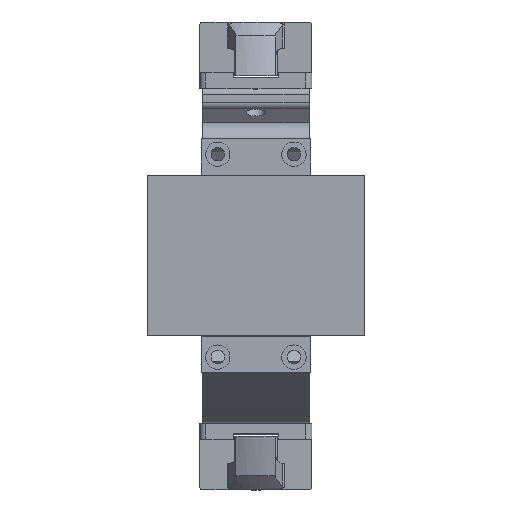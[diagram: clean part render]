
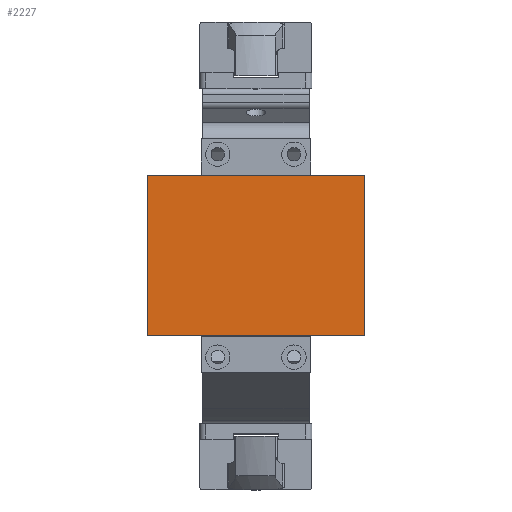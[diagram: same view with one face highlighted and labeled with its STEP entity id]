
A CAD part, top view. The second image highlights one B-rep face of the part: STEP entity #2227.
In plain terms, the highlighted planar face has unit normal (0, 0, 1).
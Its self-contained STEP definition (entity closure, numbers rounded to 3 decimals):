
#453=FACE_OUTER_BOUND('',#3300,.T.);
#692=PLANE('',#8384);
#1178=LINE('',#12532,#1784);
#1179=LINE('',#12535,#1785);
#1180=LINE('',#12537,#1786);
#1181=LINE('',#12539,#1787);
#1784=VECTOR('',#9828,1.);
#1785=VECTOR('',#9829,1.);
#1786=VECTOR('',#9830,1.);
#1787=VECTOR('',#9831,1.);
#2227=ADVANCED_FACE('',(#453),#692,.T.);
#3300=EDGE_LOOP('',(#4825,#4826,#4827,#4828));
#4825=ORIENTED_EDGE('',*,*,#7246,.T.);
#4826=ORIENTED_EDGE('',*,*,#7247,.F.);
#4827=ORIENTED_EDGE('',*,*,#7248,.F.);
#4828=ORIENTED_EDGE('',*,*,#7249,.T.);
#6287=VERTEX_POINT('',#12533);
#6288=VERTEX_POINT('',#12534);
#6289=VERTEX_POINT('',#12536);
#6290=VERTEX_POINT('',#12538);
#7246=EDGE_CURVE('',#6287,#6288,#1178,.T.);
#7247=EDGE_CURVE('',#6289,#6288,#1179,.T.);
#7248=EDGE_CURVE('',#6290,#6289,#1180,.T.);
#7249=EDGE_CURVE('',#6290,#6287,#1181,.T.);
#8384=AXIS2_PLACEMENT_3D('',#12540,#9832,#9833);
#9828=DIRECTION('',(1.,0.,0.));
#9829=DIRECTION('',(0.,-1.,0.));
#9830=DIRECTION('',(1.,0.,0.));
#9831=DIRECTION('',(0.,-1.,0.));
#9832=DIRECTION('',(0.,0.,1.));
#9833=DIRECTION('',(0.,-1.,0.));
#12532=CARTESIAN_POINT('',(13.924,-8.926,39.036));
#12533=CARTESIAN_POINT('',(-11.376,-8.926,39.036));
#12534=CARTESIAN_POINT('',(24.274,-8.926,39.036));
#12535=CARTESIAN_POINT('',(24.274,-7.826,39.036));
#12536=CARTESIAN_POINT('',(24.274,17.374,39.036));
#12537=CARTESIAN_POINT('',(13.924,17.374,39.036));
#12538=CARTESIAN_POINT('',(-11.376,17.374,39.036));
#12539=CARTESIAN_POINT('',(-11.376,-7.826,39.036));
#12540=CARTESIAN_POINT('',(-10.576,-7.826,39.036));
